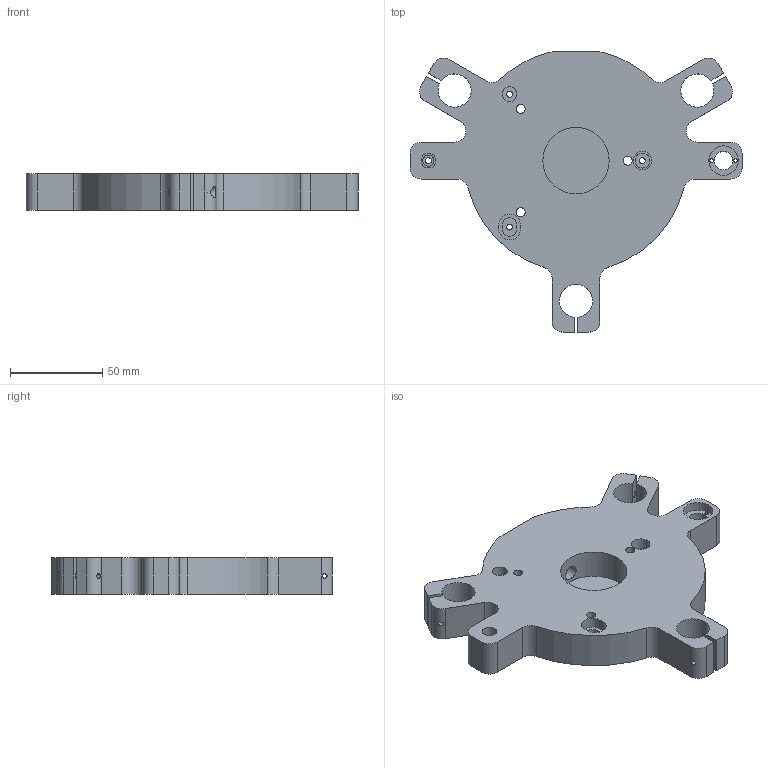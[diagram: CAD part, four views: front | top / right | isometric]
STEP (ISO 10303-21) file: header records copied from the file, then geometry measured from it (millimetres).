
FILE_DESCRIPTION(/* description */ ('Inlay'),/* implementation_level */ '2;1');
FILE_NAME(/* name */ 'Z:\Werkstatt Server\Projekte\Atlas\Entwicklung u. Konstruktion\Konstruktion\CAD Daten\ITkPixToolV2.0\Baremodule Jig\ITPTv2.01.00.10.stp',/* time_stamp */ '2021-08-06T14:54:27+02:00',/* author */ ('Tim Kanngießer'),/* organization */ (''),/* preprocessor_version */ 'ST-DEVELOPER v18.1',/* originating_system */ 'Autodesk Inventor 2022',/* authorisation */ '');
FILE_SCHEMA (('AUTOMOTIVE_DESIGN { 1 0 10303 214 3 1 1 }'));
Length unit declared in the file: millimetre
Products named in the file (1): ITPTv2.01.00.10
Bounding box: 180 x 152 x 20 mm (x, y, z)
Volume: 261056.1 mm3; surface area: 53189.3 mm2
Topology: 1 solids, 1 shells, 149 faces, 404 edges, 268 vertices
Faces by surface type: plane 72, cylinder 71, cone 6
Full cylindrical faces by diameter (mm): 2 x2, 2.05 x2, 2.459 x5, 3.2 x4, 3.4 x3, 5 x3, 6 x3, 6.5 x3, 8 x4, 10 x2, 16 x1, 36 x1
Entity records: 5046 total; most frequent: CARTESIAN_POINT 1040, DIRECTION 850, ORIENTED_EDGE 800, EDGE_CURVE 400, AXIS2_PLACEMENT_3D 310, VERTEX_POINT 268, LINE 230, VECTOR 230
